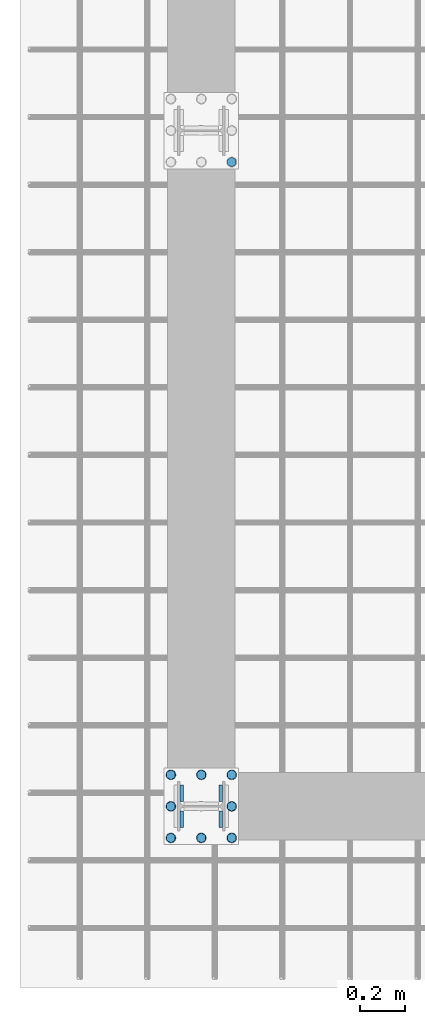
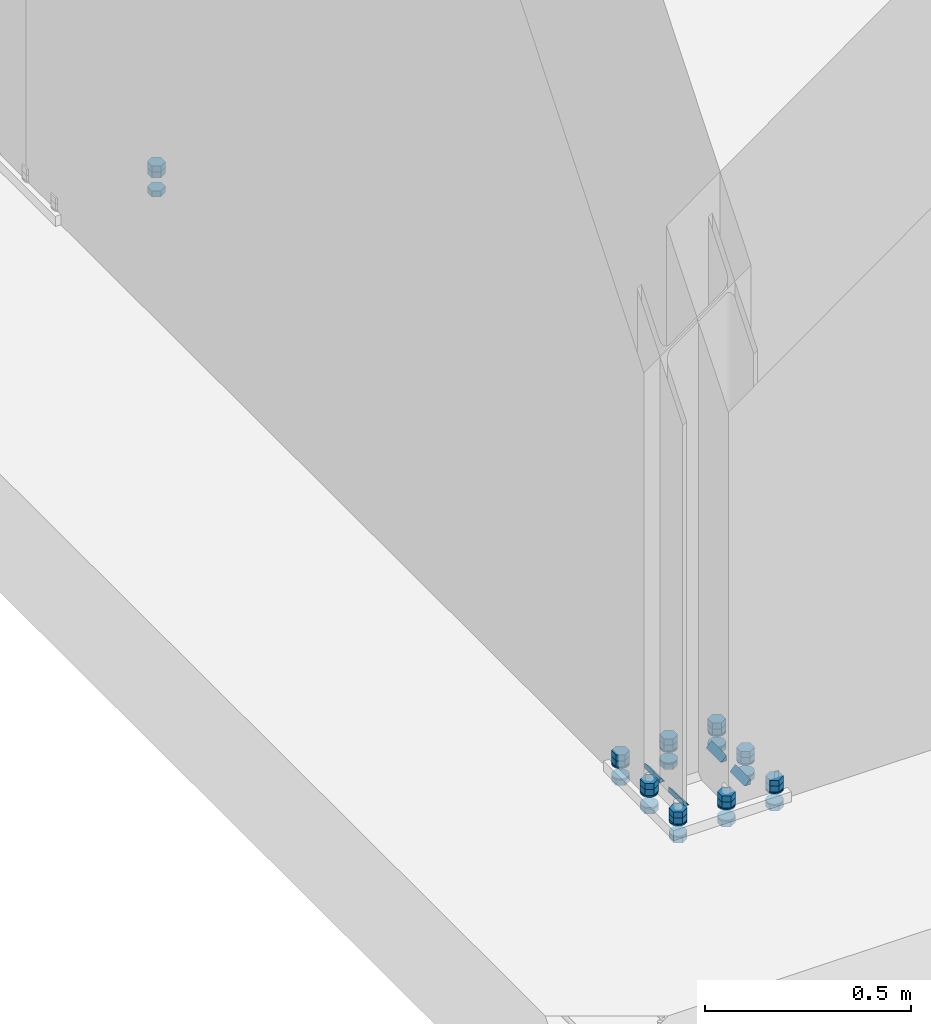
# One storey, part 13 of 29: 43 mechanical fasteners, 8 fasteners.
"""IFC4 building model written with IfcOpenShell, lengths in metres."""

from ifc_helpers import new_model, si_unit, frame, origin_with_axes, place, context, project, spatial, polyline, outline, extrude, type_object, element, save


model = new_model("IFC4")

# Units and contexts
model_context = context("Model", 3, precision=1e-05, world=origin_with_axes())
ifc_project = project(units=[si_unit("LENGTHUNIT", "METRE"), si_unit("AREAUNIT", "SQUARE_METRE"), si_unit("VOLUMEUNIT", "CUBIC_METRE"), si_unit("MASSUNIT", "GRAM", prefix="KILO"), si_unit("TIMEUNIT", "SECOND"), si_unit("PLANEANGLEUNIT", "RADIAN"), si_unit("SOLIDANGLEUNIT", "STERADIAN"), si_unit("THERMODYNAMICTEMPERATUREUNIT", "DEGREE_CELSIUS")], contexts=[model_context])

# Site, building, storey
placement_1 = place(None, origin_with_axes())
site = spatial("IfcSite", under=ifc_project, at=placement_1, Name="Italia", CompositionType="ELEMENT")
building = spatial("IfcBuilding", under=site, at=placement_1, Name="Capannone", CompositionType="ELEMENT")
storey = spatial("IfcBuildingStorey", under=building, at=placement_1, Name="Storey 0", CompositionType="ELEMENT", Elevation=0.0)

# Fasteners
fastener_type_1 = type_object("IfcFastenerType", Name="Collegamenti 0001_0101 0002_0102 0003_0103 0004_0104 0005_0105 0006_0106 0007_0107 0008_0108 0009_0109 0010_0110 0011_0111 0012_0112", PredefinedType="WELD")
placement_2 = place(placement_1, origin_with_axes())
fastener_1_placement = place(placement_2, origin_with_axes())
element("IfcFastener", 1, at=fastener_1_placement, inside=storey, type_object=fastener_type_1, Name="Collegamenti 0001_0101 0002_0102 0003_0103 0004_0104 0005_0105 0006_0106 0007_0107 0008_0108 0009_0109 0010_0110 0011_0111 0012_0112", context=model_context, shape_type="SweptSolid", body=[
    extrude(outline(polyline([(0.0, 0.0), (0.0156882, 0.0161734), (0.0156882, 0.0), (0.0, 0.0)])), frame((-0.0783618, 0.02145, 0.02995), z_axis=(0.0, 1.0, 0.0), x_axis=(-1.0, 0.0, 0.0)), (0.0, 0.0, 1.0), 0.0726),
])
fastener_type_2 = type_object("IfcFastenerType", Name="Collegamenti 0001_0101 0002_0102 0003_0103 0004_0104 0005_0105 0006_0106 0007_0107 0008_0108 0009_0109 0010_0110 0011_0111 0012_0112", PredefinedType="WELD")
fastener_2_placement = place(placement_2, origin_with_axes())
element("IfcFastener", 2, at=fastener_2_placement, inside=storey, type_object=fastener_type_2, Name="Collegamenti 0001_0101 0002_0102 0003_0103 0004_0104 0005_0105 0006_0106 0007_0107 0008_0108 0009_0109 0010_0110 0011_0111 0012_0112", context=model_context, shape_type="SweptSolid", body=[
    extrude(outline(polyline([(0.0, 0.0), (0.0156882, 0.0161734), (0.0156882, 0.0), (0.0, 0.0)])), frame((0.0783618, 0.09405, 0.02995), z_axis=(0.0, -1.0, 0.0), x_axis=(1.0, 0.0, 0.0)), (0.0, 0.0, 1.0), 0.0726),
])
fastener_type_3 = type_object("IfcFastenerType", Name="Collegamenti 0001_0101 0002_0102 0003_0103 0004_0104 0005_0105 0006_0106 0007_0107 0008_0108 0009_0109 0010_0110 0011_0111 0012_0112", PredefinedType="WELD")
fastener_3_placement = place(placement_2, origin_with_axes())
element("IfcFastener", 3, at=fastener_3_placement, inside=storey, type_object=fastener_type_3, Name="Collegamenti 0001_0101 0002_0102 0003_0103 0004_0104 0005_0105 0006_0106 0007_0107 0008_0108 0009_0109 0010_0110 0011_0111 0012_0112", context=model_context, shape_type="SweptSolid", body=[
    extrude(outline(polyline([(0.0, 0.0), (0.0156882, 0.0161734), (0.0156882, 0.0), (0.0, 0.0)])), frame((0.0783618, -0.02145, 0.02995), z_axis=(0.0, -1.0, 0.0), x_axis=(1.0, 0.0, 0.0)), (0.0, 0.0, 1.0), 0.0726),
])
fastener_type_4 = type_object("IfcFastenerType", Name="Collegamenti 0001_0101 0002_0102 0003_0103 0004_0104 0005_0105 0006_0106 0007_0107 0008_0108 0009_0109 0010_0110 0011_0111 0012_0112", PredefinedType="WELD")
fastener_4_placement = place(placement_2, origin_with_axes())
element("IfcFastener", 4, at=fastener_4_placement, inside=storey, type_object=fastener_type_4, Name="Collegamenti 0001_0101 0002_0102 0003_0103 0004_0104 0005_0105 0006_0106 0007_0107 0008_0108 0009_0109 0010_0110 0011_0111 0012_0112", context=model_context, shape_type="SweptSolid", body=[
    extrude(outline(polyline([(0.0, 0.0), (0.0156882, 0.0161734), (0.0156882, 0.0), (0.0, 0.0)])), frame((-0.0783618, -0.09405, 0.02995), z_axis=(0.0, 1.0, 0.0), x_axis=(-1.0, 0.0, 0.0)), (0.0, 0.0, 1.0), 0.0726),
])
fastener_type_5 = type_object("IfcFastenerType", Name="Collegamenti 0001_0101 0002_0102 0003_0103 0004_0104 0005_0105 0006_0106 0007_0107 0008_0108 0009_0109 0010_0110 0011_0111 0012_0112", PredefinedType="WELD")
fastener_5_placement = place(placement_2, origin_with_axes())
element("IfcFastener", 5, at=fastener_5_placement, inside=storey, type_object=fastener_type_5, Name="Collegamenti 0001_0101 0002_0102 0003_0103 0004_0104 0005_0105 0006_0106 0007_0107 0008_0108 0009_0109 0010_0110 0011_0111 0012_0112", context=model_context, shape_type="SweptSolid", body=[
    extrude(outline(polyline([(0.0, 0.0), (0.0156882, 0.0161734), (0.0156882, 0.0), (0.0, 0.0)])), frame((-0.0783618, 0.02145, 0.02995), z_axis=(0.0, 1.0, 0.0), x_axis=(-1.0, 0.0, 0.0)), (0.0, 0.0, 1.0), 0.0726),
])
fastener_type_6 = type_object("IfcFastenerType", Name="Collegamenti 0001_0101 0002_0102 0003_0103 0004_0104 0005_0105 0006_0106 0007_0107 0008_0108 0009_0109 0010_0110 0011_0111 0012_0112", PredefinedType="WELD")
fastener_6_placement = place(placement_2, origin_with_axes())
element("IfcFastener", 6, at=fastener_6_placement, inside=storey, type_object=fastener_type_6, Name="Collegamenti 0001_0101 0002_0102 0003_0103 0004_0104 0005_0105 0006_0106 0007_0107 0008_0108 0009_0109 0010_0110 0011_0111 0012_0112", context=model_context, shape_type="SweptSolid", body=[
    extrude(outline(polyline([(0.0, 0.0), (0.0156882, 0.0161734), (0.0156882, 0.0), (0.0, 0.0)])), frame((0.0783618, 0.09405, 0.02995), z_axis=(0.0, -1.0, 0.0), x_axis=(1.0, 0.0, 0.0)), (0.0, 0.0, 1.0), 0.0726),
])
fastener_type_7 = type_object("IfcFastenerType", Name="Collegamenti 0001_0101 0002_0102 0003_0103 0004_0104 0005_0105 0006_0106 0007_0107 0008_0108 0009_0109 0010_0110 0011_0111 0012_0112", PredefinedType="WELD")
fastener_7_placement = place(placement_2, origin_with_axes())
element("IfcFastener", 7, at=fastener_7_placement, inside=storey, type_object=fastener_type_7, Name="Collegamenti 0001_0101 0002_0102 0003_0103 0004_0104 0005_0105 0006_0106 0007_0107 0008_0108 0009_0109 0010_0110 0011_0111 0012_0112", context=model_context, shape_type="SweptSolid", body=[
    extrude(outline(polyline([(0.0, 0.0), (0.0156882, 0.0161734), (0.0156882, 0.0), (0.0, 0.0)])), frame((0.0783618, -0.02145, 0.02995), z_axis=(0.0, -1.0, 0.0), x_axis=(1.0, 0.0, 0.0)), (0.0, 0.0, 1.0), 0.0726),
])
fastener_type_8 = type_object("IfcFastenerType", Name="Collegamenti 0001_0101 0002_0102 0003_0103 0004_0104 0005_0105 0006_0106 0007_0107 0008_0108 0009_0109 0010_0110 0011_0111 0012_0112", PredefinedType="WELD")
fastener_8_placement = place(placement_2, origin_with_axes())
element("IfcFastener", 8, at=fastener_8_placement, inside=storey, type_object=fastener_type_8, Name="Collegamenti 0001_0101 0002_0102 0003_0103 0004_0104 0005_0105 0006_0106 0007_0107 0008_0108 0009_0109 0010_0110 0011_0111 0012_0112", context=model_context, shape_type="SweptSolid", body=[
    extrude(outline(polyline([(0.0, 0.0), (0.0156882, 0.0161734), (0.0156882, 0.0), (0.0, 0.0)])), frame((-0.0783618, -0.09405, 0.02995), z_axis=(0.0, 1.0, 0.0), x_axis=(-1.0, 0.0, 0.0)), (0.0, 0.0, 1.0), 0.0726),
])

# Mechanical fasteners
mechanical_fastener_type_1 = type_object("IfcMechanicalFastenerType", Name="Collegamenti 0001_0101 0002_0102 0003_0103 0004_0104 0005_0105 0006_0106 0007_0107 0008_0108 0009_0109 0010_0110 0011_0111 0012_0112", PredefinedType="BOLT")
mechanical_fastener_1_placement = place(placement_2, origin_with_axes())
element("IfcMechanicalFastener", 9, at=mechanical_fastener_1_placement, inside=storey, type_object=mechanical_fastener_type_1, Name="Collegamenti 0001_0101 0002_0102 0003_0103 0004_0104 0005_0105 0006_0106 0007_0107 0008_0108 0009_0109 0010_0110 0011_0111 0012_0112", NominalDiameter=0.022, context=model_context, shape_type="SweptSolid", body=[
    extrude(outline(polyline([(0.0, 0.0), (-0.022, 0.0), (-0.033, 0.0190526), (-0.022, 0.0381051), (0.0, 0.0381051), (0.011, 0.0190526), (0.0, 0.0)])), frame((0.154053, -0.129, 0.034), z_axis=(0.0, 0.0, 1.0), x_axis=(0.0, 1.0, 0.0)), (0.0, 0.0, 1.0), 0.0176),
])
mechanical_fastener_type_2 = type_object("IfcMechanicalFastenerType", Name="Collegamenti 0001_0101 0002_0102 0003_0103 0004_0104 0005_0105 0006_0106 0007_0107 0008_0108 0009_0109 0010_0110 0011_0111 0012_0112", PredefinedType="BOLT")
mechanical_fastener_2_placement = place(placement_2, origin_with_axes())
element("IfcMechanicalFastener", 10, at=mechanical_fastener_2_placement, inside=storey, type_object=mechanical_fastener_type_2, Name="Collegamenti 0001_0101 0002_0102 0003_0103 0004_0104 0005_0105 0006_0106 0007_0107 0008_0108 0009_0109 0010_0110 0011_0111 0012_0112", NominalDiameter=0.022, context=model_context, shape_type="SweptSolid", body=[
    extrude(outline(polyline([(0.0, 0.0), (-0.022, 0.0), (-0.033, 0.0190526), (-0.022, 0.0381051), (0.0, 0.0381051), (0.011, 0.0190526), (0.0, 0.0)])), frame((0.154053, -0.129, 0.0516), z_axis=(0.0, 0.0, 1.0), x_axis=(0.0, 1.0, 0.0)), (0.0, 0.0, 1.0), 0.0176),
])
mechanical_fastener_type_3 = type_object("IfcMechanicalFastenerType", Name="Collegamenti 0001_0101 0002_0102 0003_0103 0004_0104 0005_0105 0006_0106 0007_0107 0008_0108 0009_0109 0010_0110 0011_0111 0012_0112", PredefinedType="BOLT")
mechanical_fastener_3_placement = place(placement_2, origin_with_axes())
element("IfcMechanicalFastener", 11, at=mechanical_fastener_3_placement, inside=storey, type_object=mechanical_fastener_type_3, Name="Collegamenti 0001_0101 0002_0102 0003_0103 0004_0104 0005_0105 0006_0106 0007_0107 0008_0108 0009_0109 0010_0110 0011_0111 0012_0112", NominalDiameter=0.022, context=model_context, shape_type="SweptSolid", body=[
    extrude(outline(polyline([(0.0, 0.0), (-0.022, 0.0), (-0.033, 0.0190526), (-0.022, 0.0381051), (0.0, 0.0381051), (0.011, 0.0190526), (0.0, 0.0)])), frame((0.154053, -0.129, -0.0216), z_axis=(0.0, 0.0, 1.0), x_axis=(0.0, 1.0, 0.0)), (0.0, 0.0, 1.0), 0.0176),
])
mechanical_fastener_type_4 = type_object("IfcMechanicalFastenerType", Name="Collegamenti 0001_0101 0002_0102 0003_0103 0004_0104 0005_0105 0006_0106 0007_0107 0008_0108 0009_0109 0010_0110 0011_0111 0012_0112", PredefinedType="BOLT")
mechanical_fastener_4_placement = place(placement_2, origin_with_axes())
element("IfcMechanicalFastener", 12, at=mechanical_fastener_4_placement, inside=storey, type_object=mechanical_fastener_type_4, Name="Collegamenti 0001_0101 0002_0102 0003_0103 0004_0104 0005_0105 0006_0106 0007_0107 0008_0108 0009_0109 0010_0110 0011_0111 0012_0112", NominalDiameter=0.044, context=model_context, shape_type="SweptSolid", body=[
    extrude(outline(polyline([(0.0, 0.0), (-0.000749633, -0.00569402), (-0.00294744, -0.011), (-0.00644365, -0.0155564), (-0.011, -0.0190526), (-0.016306, -0.0212504), (-0.022, -0.022), (-0.027694, -0.0212504), (-0.033, -0.0190526), (-0.0375564, -0.0155564), (-0.0410526, -0.011), (-0.0432504, -0.00569402), (-0.044, 0.0), (-0.0432504, 0.00569402), (-0.0410526, 0.011), (-0.0375564, 0.0155564), (-0.033, 0.0190526), (-0.027694, 0.0212504), (-0.022, 0.022), (-0.016306, 0.0212504), (-0.011, 0.0190526), (-0.00644365, 0.0155563), (-0.00294743, 0.011), (-0.000749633, 0.00569402), (0.0, 0.0)])), frame((0.135, -0.118, 0.03), z_axis=(0.0, 0.0, 1.0), x_axis=(0.0, 1.0, 0.0)), (0.0, 0.0, 1.0), 0.004),
])
mechanical_fastener_type_5 = type_object("IfcMechanicalFastenerType", Name="Collegamenti 0001_0101 0002_0102 0003_0103 0004_0104 0005_0105 0006_0106 0007_0107 0008_0108 0009_0109 0010_0110 0011_0111 0012_0112", PredefinedType="BOLT")
mechanical_fastener_5_placement = place(placement_2, origin_with_axes())
element("IfcMechanicalFastener", 13, at=mechanical_fastener_5_placement, inside=storey, type_object=mechanical_fastener_type_5, Name="Collegamenti 0001_0101 0002_0102 0003_0103 0004_0104 0005_0105 0006_0106 0007_0107 0008_0108 0009_0109 0010_0110 0011_0111 0012_0112", NominalDiameter=0.044, context=model_context, shape_type="SweptSolid", body=[
    extrude(outline(polyline([(0.0, 0.0), (-0.000749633, -0.00569402), (-0.00294744, -0.011), (-0.00644365, -0.0155564), (-0.011, -0.0190526), (-0.016306, -0.0212504), (-0.022, -0.022), (-0.027694, -0.0212504), (-0.033, -0.0190526), (-0.0375564, -0.0155564), (-0.0410526, -0.011), (-0.0432504, -0.00569402), (-0.044, 0.0), (-0.0432504, 0.00569402), (-0.0410526, 0.011), (-0.0375564, 0.0155564), (-0.033, 0.0190526), (-0.027694, 0.0212504), (-0.022, 0.022), (-0.016306, 0.0212504), (-0.011, 0.0190526), (-0.00644365, 0.0155563), (-0.00294743, 0.011), (-0.000749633, 0.00569402), (0.0, 0.0)])), frame((0.135, -0.118, -0.004), z_axis=(0.0, 0.0, 1.0), x_axis=(0.0, 1.0, 0.0)), (0.0, 0.0, 1.0), 0.004),
])
mechanical_fastener_type_6 = type_object("IfcMechanicalFastenerType", Name="Collegamenti 0001_0101 0002_0102 0003_0103 0004_0104 0005_0105 0006_0106 0007_0107 0008_0108 0009_0109 0010_0110 0011_0111 0012_0112", PredefinedType="BOLT")
mechanical_fastener_6_placement = place(placement_2, origin_with_axes())
element("IfcMechanicalFastener", 14, at=mechanical_fastener_6_placement, inside=storey, type_object=mechanical_fastener_type_6, Name="Collegamenti 0001_0101 0002_0102 0003_0103 0004_0104 0005_0105 0006_0106 0007_0107 0008_0108 0009_0109 0010_0110 0011_0111 0012_0112", NominalDiameter=0.022, context=model_context, shape_type="SweptSolid", body=[
    extrude(outline(polyline([(0.0, 0.0), (-0.022, 0.0), (-0.033, 0.0190526), (-0.022, 0.0381051), (0.0, 0.0381051), (0.011, 0.0190526), (0.0, 0.0)])), frame((0.154053, 0.011, 0.034), z_axis=(0.0, 0.0, 1.0), x_axis=(0.0, 1.0, 0.0)), (0.0, 0.0, 1.0), 0.0176),
])
mechanical_fastener_type_7 = type_object("IfcMechanicalFastenerType", Name="Collegamenti 0001_0101 0002_0102 0003_0103 0004_0104 0005_0105 0006_0106 0007_0107 0008_0108 0009_0109 0010_0110 0011_0111 0012_0112", PredefinedType="BOLT")
mechanical_fastener_7_placement = place(placement_2, origin_with_axes())
element("IfcMechanicalFastener", 15, at=mechanical_fastener_7_placement, inside=storey, type_object=mechanical_fastener_type_7, Name="Collegamenti 0001_0101 0002_0102 0003_0103 0004_0104 0005_0105 0006_0106 0007_0107 0008_0108 0009_0109 0010_0110 0011_0111 0012_0112", NominalDiameter=0.022, context=model_context, shape_type="SweptSolid", body=[
    extrude(outline(polyline([(0.0, 0.0), (-0.022, 0.0), (-0.033, 0.0190526), (-0.022, 0.0381051), (0.0, 0.0381051), (0.011, 0.0190526), (0.0, 0.0)])), frame((0.154053, 0.011, 0.0516), z_axis=(0.0, 0.0, 1.0), x_axis=(0.0, 1.0, 0.0)), (0.0, 0.0, 1.0), 0.0176),
])
mechanical_fastener_type_8 = type_object("IfcMechanicalFastenerType", Name="Collegamenti 0001_0101 0002_0102 0003_0103 0004_0104 0005_0105 0006_0106 0007_0107 0008_0108 0009_0109 0010_0110 0011_0111 0012_0112", PredefinedType="BOLT")
mechanical_fastener_8_placement = place(placement_2, origin_with_axes())
element("IfcMechanicalFastener", 16, at=mechanical_fastener_8_placement, inside=storey, type_object=mechanical_fastener_type_8, Name="Collegamenti 0001_0101 0002_0102 0003_0103 0004_0104 0005_0105 0006_0106 0007_0107 0008_0108 0009_0109 0010_0110 0011_0111 0012_0112", NominalDiameter=0.022, context=model_context, shape_type="SweptSolid", body=[
    extrude(outline(polyline([(0.0, 0.0), (-0.022, 0.0), (-0.033, 0.0190526), (-0.022, 0.0381051), (0.0, 0.0381051), (0.011, 0.0190526), (0.0, 0.0)])), frame((0.154053, 0.011, -0.0216), z_axis=(0.0, 0.0, 1.0), x_axis=(0.0, 1.0, 0.0)), (0.0, 0.0, 1.0), 0.0176),
])
mechanical_fastener_type_9 = type_object("IfcMechanicalFastenerType", Name="Collegamenti 0001_0101 0002_0102 0003_0103 0004_0104 0005_0105 0006_0106 0007_0107 0008_0108 0009_0109 0010_0110 0011_0111 0012_0112", PredefinedType="BOLT")
mechanical_fastener_9_placement = place(placement_2, origin_with_axes())
element("IfcMechanicalFastener", 17, at=mechanical_fastener_9_placement, inside=storey, type_object=mechanical_fastener_type_9, Name="Collegamenti 0001_0101 0002_0102 0003_0103 0004_0104 0005_0105 0006_0106 0007_0107 0008_0108 0009_0109 0010_0110 0011_0111 0012_0112", NominalDiameter=0.044, context=model_context, shape_type="SweptSolid", body=[
    extrude(outline(polyline([(0.0, 0.0), (-0.000749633, -0.00569402), (-0.00294744, -0.011), (-0.00644365, -0.0155564), (-0.011, -0.0190526), (-0.016306, -0.0212504), (-0.022, -0.022), (-0.027694, -0.0212504), (-0.033, -0.0190526), (-0.0375564, -0.0155564), (-0.0410526, -0.011), (-0.0432504, -0.00569402), (-0.044, 0.0), (-0.0432504, 0.00569402), (-0.0410526, 0.011), (-0.0375563, 0.0155564), (-0.033, 0.0190526), (-0.027694, 0.0212504), (-0.022, 0.022), (-0.016306, 0.0212504), (-0.011, 0.0190526), (-0.00644365, 0.0155563), (-0.00294744, 0.011), (-0.000749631, 0.00569402), (0.0, 0.0)])), frame((0.135, 0.022, 0.03), z_axis=(0.0, 0.0, 1.0), x_axis=(0.0, 1.0, 0.0)), (0.0, 0.0, 1.0), 0.004),
])
mechanical_fastener_type_10 = type_object("IfcMechanicalFastenerType", Name="Collegamenti 0001_0101 0002_0102 0003_0103 0004_0104 0005_0105 0006_0106 0007_0107 0008_0108 0009_0109 0010_0110 0011_0111 0012_0112", PredefinedType="BOLT")
mechanical_fastener_10_placement = place(placement_2, origin_with_axes())
element("IfcMechanicalFastener", 18, at=mechanical_fastener_10_placement, inside=storey, type_object=mechanical_fastener_type_10, Name="Collegamenti 0001_0101 0002_0102 0003_0103 0004_0104 0005_0105 0006_0106 0007_0107 0008_0108 0009_0109 0010_0110 0011_0111 0012_0112", NominalDiameter=0.044, context=model_context, shape_type="SweptSolid", body=[
    extrude(outline(polyline([(0.0, 0.0), (-0.000749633, -0.00569402), (-0.00294744, -0.011), (-0.00644365, -0.0155564), (-0.011, -0.0190526), (-0.016306, -0.0212504), (-0.022, -0.022), (-0.027694, -0.0212504), (-0.033, -0.0190526), (-0.0375564, -0.0155564), (-0.0410526, -0.011), (-0.0432504, -0.00569402), (-0.044, 0.0), (-0.0432504, 0.00569402), (-0.0410526, 0.011), (-0.0375563, 0.0155564), (-0.033, 0.0190526), (-0.027694, 0.0212504), (-0.022, 0.022), (-0.016306, 0.0212504), (-0.011, 0.0190526), (-0.00644365, 0.0155563), (-0.00294744, 0.011), (-0.000749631, 0.00569402), (0.0, 0.0)])), frame((0.135, 0.022, -0.004), z_axis=(0.0, 0.0, 1.0), x_axis=(0.0, 1.0, 0.0)), (0.0, 0.0, 1.0), 0.004),
])
mechanical_fastener_type_11 = type_object("IfcMechanicalFastenerType", Name="Collegamenti 0001_0101 0002_0102 0003_0103 0004_0104 0005_0105 0006_0106 0007_0107 0008_0108 0009_0109 0010_0110 0011_0111 0012_0112", PredefinedType="BOLT")
mechanical_fastener_11_placement = place(placement_2, origin_with_axes())
element("IfcMechanicalFastener", 19, at=mechanical_fastener_11_placement, inside=storey, type_object=mechanical_fastener_type_11, Name="Collegamenti 0001_0101 0002_0102 0003_0103 0004_0104 0005_0105 0006_0106 0007_0107 0008_0108 0009_0109 0010_0110 0011_0111 0012_0112", NominalDiameter=0.022, context=model_context, shape_type="SweptSolid", body=[
    extrude(outline(polyline([(0.0, 0.0), (-0.022, 0.0), (-0.033, 0.0190526), (-0.022, 0.0381051), (0.0, 0.0381051), (0.011, 0.0190526), (0.0, 0.0)])), frame((0.154053, 0.151, 0.034), z_axis=(0.0, 0.0, 1.0), x_axis=(0.0, 1.0, 0.0)), (0.0, 0.0, 1.0), 0.0176),
])
mechanical_fastener_type_12 = type_object("IfcMechanicalFastenerType", Name="Collegamenti 0001_0101 0002_0102 0003_0103 0004_0104 0005_0105 0006_0106 0007_0107 0008_0108 0009_0109 0010_0110 0011_0111 0012_0112", PredefinedType="BOLT")
mechanical_fastener_12_placement = place(placement_2, origin_with_axes())
element("IfcMechanicalFastener", 20, at=mechanical_fastener_12_placement, inside=storey, type_object=mechanical_fastener_type_12, Name="Collegamenti 0001_0101 0002_0102 0003_0103 0004_0104 0005_0105 0006_0106 0007_0107 0008_0108 0009_0109 0010_0110 0011_0111 0012_0112", NominalDiameter=0.022, context=model_context, shape_type="SweptSolid", body=[
    extrude(outline(polyline([(0.0, 0.0), (-0.022, 0.0), (-0.033, 0.0190526), (-0.022, 0.0381051), (0.0, 0.0381051), (0.011, 0.0190526), (0.0, 0.0)])), frame((0.154053, 0.151, 0.0516), z_axis=(0.0, 0.0, 1.0), x_axis=(0.0, 1.0, 0.0)), (0.0, 0.0, 1.0), 0.0176),
])
mechanical_fastener_type_13 = type_object("IfcMechanicalFastenerType", Name="Collegamenti 0001_0101 0002_0102 0003_0103 0004_0104 0005_0105 0006_0106 0007_0107 0008_0108 0009_0109 0010_0110 0011_0111 0012_0112", PredefinedType="BOLT")
mechanical_fastener_13_placement = place(placement_2, origin_with_axes())
element("IfcMechanicalFastener", 21, at=mechanical_fastener_13_placement, inside=storey, type_object=mechanical_fastener_type_13, Name="Collegamenti 0001_0101 0002_0102 0003_0103 0004_0104 0005_0105 0006_0106 0007_0107 0008_0108 0009_0109 0010_0110 0011_0111 0012_0112", NominalDiameter=0.022, context=model_context, shape_type="SweptSolid", body=[
    extrude(outline(polyline([(0.0, 0.0), (-0.022, 0.0), (-0.033, 0.0190526), (-0.022, 0.0381051), (0.0, 0.0381051), (0.011, 0.0190526), (0.0, 0.0)])), frame((0.154053, 0.151, -0.0216), z_axis=(0.0, 0.0, 1.0), x_axis=(0.0, 1.0, 0.0)), (0.0, 0.0, 1.0), 0.0176),
])
mechanical_fastener_type_14 = type_object("IfcMechanicalFastenerType", Name="Collegamenti 0001_0101 0002_0102 0003_0103 0004_0104 0005_0105 0006_0106 0007_0107 0008_0108 0009_0109 0010_0110 0011_0111 0012_0112", PredefinedType="BOLT")
mechanical_fastener_14_placement = place(placement_2, origin_with_axes())
element("IfcMechanicalFastener", 22, at=mechanical_fastener_14_placement, inside=storey, type_object=mechanical_fastener_type_14, Name="Collegamenti 0001_0101 0002_0102 0003_0103 0004_0104 0005_0105 0006_0106 0007_0107 0008_0108 0009_0109 0010_0110 0011_0111 0012_0112", NominalDiameter=0.044, context=model_context, shape_type="SweptSolid", body=[
    extrude(outline(polyline([(0.0, 0.0), (-0.000749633, -0.00569402), (-0.00294743, -0.011), (-0.00644365, -0.0155564), (-0.011, -0.0190526), (-0.016306, -0.0212504), (-0.022, -0.022), (-0.027694, -0.0212504), (-0.033, -0.0190526), (-0.0375564, -0.0155564), (-0.0410526, -0.011), (-0.0432504, -0.00569402), (-0.044, 0.0), (-0.0432504, 0.00569402), (-0.0410526, 0.011), (-0.0375564, 0.0155564), (-0.033, 0.0190526), (-0.027694, 0.0212504), (-0.022, 0.022), (-0.016306, 0.0212504), (-0.011, 0.0190526), (-0.00644365, 0.0155563), (-0.00294743, 0.011), (-0.000749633, 0.00569402), (0.0, 0.0)])), frame((0.135, 0.162, 0.03), z_axis=(0.0, 0.0, 1.0), x_axis=(0.0, 1.0, 0.0)), (0.0, 0.0, 1.0), 0.004),
])
mechanical_fastener_type_15 = type_object("IfcMechanicalFastenerType", Name="Collegamenti 0001_0101 0002_0102 0003_0103 0004_0104 0005_0105 0006_0106 0007_0107 0008_0108 0009_0109 0010_0110 0011_0111 0012_0112", PredefinedType="BOLT")
mechanical_fastener_15_placement = place(placement_2, origin_with_axes())
element("IfcMechanicalFastener", 23, at=mechanical_fastener_15_placement, inside=storey, type_object=mechanical_fastener_type_15, Name="Collegamenti 0001_0101 0002_0102 0003_0103 0004_0104 0005_0105 0006_0106 0007_0107 0008_0108 0009_0109 0010_0110 0011_0111 0012_0112", NominalDiameter=0.044, context=model_context, shape_type="SweptSolid", body=[
    extrude(outline(polyline([(0.0, 0.0), (-0.000749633, -0.00569402), (-0.00294743, -0.011), (-0.00644365, -0.0155564), (-0.011, -0.0190526), (-0.016306, -0.0212504), (-0.022, -0.022), (-0.027694, -0.0212504), (-0.033, -0.0190526), (-0.0375564, -0.0155564), (-0.0410526, -0.011), (-0.0432504, -0.00569402), (-0.044, 0.0), (-0.0432504, 0.00569402), (-0.0410526, 0.011), (-0.0375564, 0.0155564), (-0.033, 0.0190526), (-0.027694, 0.0212504), (-0.022, 0.022), (-0.016306, 0.0212504), (-0.011, 0.0190526), (-0.00644365, 0.0155563), (-0.00294743, 0.011), (-0.000749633, 0.00569402), (0.0, 0.0)])), frame((0.135, 0.162, -0.004), z_axis=(0.0, 0.0, 1.0), x_axis=(0.0, 1.0, 0.0)), (0.0, 0.0, 1.0), 0.004),
])
mechanical_fastener_type_16 = type_object("IfcMechanicalFastenerType", Name="Collegamenti 0001_0101 0002_0102 0003_0103 0004_0104 0005_0105 0006_0106 0007_0107 0008_0108 0009_0109 0010_0110 0011_0111 0012_0112", PredefinedType="BOLT")
mechanical_fastener_16_placement = place(placement_2, origin_with_axes())
element("IfcMechanicalFastener", 24, at=mechanical_fastener_16_placement, inside=storey, type_object=mechanical_fastener_type_16, Name="Collegamenti 0001_0101 0002_0102 0003_0103 0004_0104 0005_0105 0006_0106 0007_0107 0008_0108 0009_0109 0010_0110 0011_0111 0012_0112", NominalDiameter=0.022, context=model_context, shape_type="SweptSolid", body=[
    extrude(outline(polyline([(0.0, 0.0), (-0.022, 0.0), (-0.033, 0.0190526), (-0.022, 0.0381051), (0.0, 0.0381051), (0.011, 0.0190526), (0.0, 0.0)])), frame((0.0190526, -0.129, 0.034), z_axis=(0.0, 0.0, 1.0), x_axis=(0.0, 1.0, 0.0)), (0.0, 0.0, 1.0), 0.0176),
])
mechanical_fastener_type_17 = type_object("IfcMechanicalFastenerType", Name="Collegamenti 0001_0101 0002_0102 0003_0103 0004_0104 0005_0105 0006_0106 0007_0107 0008_0108 0009_0109 0010_0110 0011_0111 0012_0112", PredefinedType="BOLT")
mechanical_fastener_17_placement = place(placement_2, origin_with_axes())
element("IfcMechanicalFastener", 25, at=mechanical_fastener_17_placement, inside=storey, type_object=mechanical_fastener_type_17, Name="Collegamenti 0001_0101 0002_0102 0003_0103 0004_0104 0005_0105 0006_0106 0007_0107 0008_0108 0009_0109 0010_0110 0011_0111 0012_0112", NominalDiameter=0.022, context=model_context, shape_type="SweptSolid", body=[
    extrude(outline(polyline([(0.0, 0.0), (-0.022, 0.0), (-0.033, 0.0190526), (-0.022, 0.0381051), (0.0, 0.0381051), (0.011, 0.0190526), (0.0, 0.0)])), frame((0.0190526, -0.129, 0.0516), z_axis=(0.0, 0.0, 1.0), x_axis=(0.0, 1.0, 0.0)), (0.0, 0.0, 1.0), 0.0176),
])
mechanical_fastener_type_18 = type_object("IfcMechanicalFastenerType", Name="Collegamenti 0001_0101 0002_0102 0003_0103 0004_0104 0005_0105 0006_0106 0007_0107 0008_0108 0009_0109 0010_0110 0011_0111 0012_0112", PredefinedType="BOLT")
mechanical_fastener_18_placement = place(placement_2, origin_with_axes())
element("IfcMechanicalFastener", 26, at=mechanical_fastener_18_placement, inside=storey, type_object=mechanical_fastener_type_18, Name="Collegamenti 0001_0101 0002_0102 0003_0103 0004_0104 0005_0105 0006_0106 0007_0107 0008_0108 0009_0109 0010_0110 0011_0111 0012_0112", NominalDiameter=0.022, context=model_context, shape_type="SweptSolid", body=[
    extrude(outline(polyline([(0.0, 0.0), (-0.022, 0.0), (-0.033, 0.0190526), (-0.022, 0.0381051), (0.0, 0.0381051), (0.011, 0.0190526), (0.0, 0.0)])), frame((0.0190526, -0.129, -0.0216), z_axis=(0.0, 0.0, 1.0), x_axis=(0.0, 1.0, 0.0)), (0.0, 0.0, 1.0), 0.0176),
])
mechanical_fastener_type_19 = type_object("IfcMechanicalFastenerType", Name="Collegamenti 0001_0101 0002_0102 0003_0103 0004_0104 0005_0105 0006_0106 0007_0107 0008_0108 0009_0109 0010_0110 0011_0111 0012_0112", PredefinedType="BOLT")
mechanical_fastener_19_placement = place(placement_2, origin_with_axes())
element("IfcMechanicalFastener", 27, at=mechanical_fastener_19_placement, inside=storey, type_object=mechanical_fastener_type_19, Name="Collegamenti 0001_0101 0002_0102 0003_0103 0004_0104 0005_0105 0006_0106 0007_0107 0008_0108 0009_0109 0010_0110 0011_0111 0012_0112", NominalDiameter=0.044, context=model_context, shape_type="SweptSolid", body=[
    extrude(outline(polyline([(0.0, 0.0), (-0.000749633, -0.00569402), (-0.00294744, -0.011), (-0.00644365, -0.0155563), (-0.011, -0.0190526), (-0.016306, -0.0212504), (-0.022, -0.022), (-0.027694, -0.0212504), (-0.033, -0.0190526), (-0.0375564, -0.0155563), (-0.0410526, -0.011), (-0.0432504, -0.00569402), (-0.044, 0.0), (-0.0432504, 0.00569402), (-0.0410526, 0.011), (-0.0375564, 0.0155564), (-0.033, 0.0190526), (-0.027694, 0.0212504), (-0.022, 0.022), (-0.016306, 0.0212504), (-0.011, 0.0190526), (-0.00644365, 0.0155563), (-0.00294743, 0.011), (-0.000749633, 0.00569401), (0.0, 0.0)])), frame((0.0, -0.118, 0.03), z_axis=(0.0, 0.0, 1.0), x_axis=(0.0, 1.0, 0.0)), (0.0, 0.0, 1.0), 0.004),
])
mechanical_fastener_type_20 = type_object("IfcMechanicalFastenerType", Name="Collegamenti 0001_0101 0002_0102 0003_0103 0004_0104 0005_0105 0006_0106 0007_0107 0008_0108 0009_0109 0010_0110 0011_0111 0012_0112", PredefinedType="BOLT")
mechanical_fastener_20_placement = place(placement_2, origin_with_axes())
element("IfcMechanicalFastener", 28, at=mechanical_fastener_20_placement, inside=storey, type_object=mechanical_fastener_type_20, Name="Collegamenti 0001_0101 0002_0102 0003_0103 0004_0104 0005_0105 0006_0106 0007_0107 0008_0108 0009_0109 0010_0110 0011_0111 0012_0112", NominalDiameter=0.044, context=model_context, shape_type="SweptSolid", body=[
    extrude(outline(polyline([(0.0, 0.0), (-0.000749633, -0.00569402), (-0.00294744, -0.011), (-0.00644365, -0.0155563), (-0.011, -0.0190526), (-0.016306, -0.0212504), (-0.022, -0.022), (-0.027694, -0.0212504), (-0.033, -0.0190526), (-0.0375564, -0.0155563), (-0.0410526, -0.011), (-0.0432504, -0.00569402), (-0.044, 0.0), (-0.0432504, 0.00569402), (-0.0410526, 0.011), (-0.0375564, 0.0155564), (-0.033, 0.0190526), (-0.027694, 0.0212504), (-0.022, 0.022), (-0.016306, 0.0212504), (-0.011, 0.0190526), (-0.00644365, 0.0155563), (-0.00294743, 0.011), (-0.000749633, 0.00569401), (0.0, 0.0)])), frame((0.0, -0.118, -0.004), z_axis=(0.0, 0.0, 1.0), x_axis=(0.0, 1.0, 0.0)), (0.0, 0.0, 1.0), 0.004),
])
mechanical_fastener_type_21 = type_object("IfcMechanicalFastenerType", Name="Collegamenti 0001_0101 0002_0102 0003_0103 0004_0104 0005_0105 0006_0106 0007_0107 0008_0108 0009_0109 0010_0110 0011_0111 0012_0112", PredefinedType="BOLT")
mechanical_fastener_21_placement = place(placement_2, origin_with_axes())
element("IfcMechanicalFastener", 29, at=mechanical_fastener_21_placement, inside=storey, type_object=mechanical_fastener_type_21, Name="Collegamenti 0001_0101 0002_0102 0003_0103 0004_0104 0005_0105 0006_0106 0007_0107 0008_0108 0009_0109 0010_0110 0011_0111 0012_0112", NominalDiameter=0.022, context=model_context, shape_type="SweptSolid", body=[
    extrude(outline(polyline([(0.0, 0.0), (-0.022, 0.0), (-0.033, 0.0190526), (-0.022, 0.0381051), (0.0, 0.0381051), (0.011, 0.0190526), (0.0, 0.0)])), frame((0.0190526, 0.151, 0.034), z_axis=(0.0, 0.0, 1.0), x_axis=(0.0, 1.0, 0.0)), (0.0, 0.0, 1.0), 0.0176),
])
mechanical_fastener_type_22 = type_object("IfcMechanicalFastenerType", Name="Collegamenti 0001_0101 0002_0102 0003_0103 0004_0104 0005_0105 0006_0106 0007_0107 0008_0108 0009_0109 0010_0110 0011_0111 0012_0112", PredefinedType="BOLT")
mechanical_fastener_22_placement = place(placement_2, origin_with_axes())
element("IfcMechanicalFastener", 30, at=mechanical_fastener_22_placement, inside=storey, type_object=mechanical_fastener_type_22, Name="Collegamenti 0001_0101 0002_0102 0003_0103 0004_0104 0005_0105 0006_0106 0007_0107 0008_0108 0009_0109 0010_0110 0011_0111 0012_0112", NominalDiameter=0.022, context=model_context, shape_type="SweptSolid", body=[
    extrude(outline(polyline([(0.0, 0.0), (-0.022, 0.0), (-0.033, 0.0190526), (-0.022, 0.0381051), (0.0, 0.0381051), (0.011, 0.0190526), (0.0, 0.0)])), frame((0.0190526, 0.151, 0.0516), z_axis=(0.0, 0.0, 1.0), x_axis=(0.0, 1.0, 0.0)), (0.0, 0.0, 1.0), 0.0176),
])
mechanical_fastener_type_23 = type_object("IfcMechanicalFastenerType", Name="Collegamenti 0001_0101 0002_0102 0003_0103 0004_0104 0005_0105 0006_0106 0007_0107 0008_0108 0009_0109 0010_0110 0011_0111 0012_0112", PredefinedType="BOLT")
mechanical_fastener_23_placement = place(placement_2, origin_with_axes())
element("IfcMechanicalFastener", 31, at=mechanical_fastener_23_placement, inside=storey, type_object=mechanical_fastener_type_23, Name="Collegamenti 0001_0101 0002_0102 0003_0103 0004_0104 0005_0105 0006_0106 0007_0107 0008_0108 0009_0109 0010_0110 0011_0111 0012_0112", NominalDiameter=0.022, context=model_context, shape_type="SweptSolid", body=[
    extrude(outline(polyline([(0.0, 0.0), (-0.022, 0.0), (-0.033, 0.0190526), (-0.022, 0.0381051), (0.0, 0.0381051), (0.011, 0.0190526), (0.0, 0.0)])), frame((0.0190526, 0.151, -0.0216), z_axis=(0.0, 0.0, 1.0), x_axis=(0.0, 1.0, 0.0)), (0.0, 0.0, 1.0), 0.0176),
])
mechanical_fastener_type_24 = type_object("IfcMechanicalFastenerType", Name="Collegamenti 0001_0101 0002_0102 0003_0103 0004_0104 0005_0105 0006_0106 0007_0107 0008_0108 0009_0109 0010_0110 0011_0111 0012_0112", PredefinedType="BOLT")
mechanical_fastener_24_placement = place(placement_2, origin_with_axes())
element("IfcMechanicalFastener", 32, at=mechanical_fastener_24_placement, inside=storey, type_object=mechanical_fastener_type_24, Name="Collegamenti 0001_0101 0002_0102 0003_0103 0004_0104 0005_0105 0006_0106 0007_0107 0008_0108 0009_0109 0010_0110 0011_0111 0012_0112", NominalDiameter=0.044, context=model_context, shape_type="SweptSolid", body=[
    extrude(outline(polyline([(0.0, 0.0), (-0.000749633, -0.00569402), (-0.00294743, -0.011), (-0.00644365, -0.0155563), (-0.011, -0.0190526), (-0.016306, -0.0212504), (-0.022, -0.022), (-0.027694, -0.0212504), (-0.033, -0.0190526), (-0.0375564, -0.0155563), (-0.0410526, -0.011), (-0.0432504, -0.00569402), (-0.044, 0.0), (-0.0432504, 0.00569402), (-0.0410526, 0.011), (-0.0375564, 0.0155564), (-0.033, 0.0190526), (-0.027694, 0.0212504), (-0.022, 0.022), (-0.016306, 0.0212504), (-0.011, 0.0190526), (-0.00644365, 0.0155563), (-0.00294743, 0.011), (-0.000749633, 0.00569401), (0.0, 0.0)])), frame((0.0, 0.162, 0.03), z_axis=(0.0, 0.0, 1.0), x_axis=(0.0, 1.0, 0.0)), (0.0, 0.0, 1.0), 0.004),
])
mechanical_fastener_type_25 = type_object("IfcMechanicalFastenerType", Name="Collegamenti 0001_0101 0002_0102 0003_0103 0004_0104 0005_0105 0006_0106 0007_0107 0008_0108 0009_0109 0010_0110 0011_0111 0012_0112", PredefinedType="BOLT")
mechanical_fastener_25_placement = place(placement_2, origin_with_axes())
element("IfcMechanicalFastener", 33, at=mechanical_fastener_25_placement, inside=storey, type_object=mechanical_fastener_type_25, Name="Collegamenti 0001_0101 0002_0102 0003_0103 0004_0104 0005_0105 0006_0106 0007_0107 0008_0108 0009_0109 0010_0110 0011_0111 0012_0112", NominalDiameter=0.044, context=model_context, shape_type="SweptSolid", body=[
    extrude(outline(polyline([(0.0, 0.0), (-0.000749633, -0.00569402), (-0.00294743, -0.011), (-0.00644365, -0.0155563), (-0.011, -0.0190526), (-0.016306, -0.0212504), (-0.022, -0.022), (-0.027694, -0.0212504), (-0.033, -0.0190526), (-0.0375564, -0.0155563), (-0.0410526, -0.011), (-0.0432504, -0.00569402), (-0.044, 0.0), (-0.0432504, 0.00569402), (-0.0410526, 0.011), (-0.0375564, 0.0155564), (-0.033, 0.0190526), (-0.027694, 0.0212504), (-0.022, 0.022), (-0.016306, 0.0212504), (-0.011, 0.0190526), (-0.00644365, 0.0155563), (-0.00294743, 0.011), (-0.000749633, 0.00569401), (0.0, 0.0)])), frame((0.0, 0.162, -0.004), z_axis=(0.0, 0.0, 1.0), x_axis=(0.0, 1.0, 0.0)), (0.0, 0.0, 1.0), 0.004),
])
mechanical_fastener_type_26 = type_object("IfcMechanicalFastenerType", Name="Collegamenti 0001_0101 0002_0102 0003_0103 0004_0104 0005_0105 0006_0106 0007_0107 0008_0108 0009_0109 0010_0110 0011_0111 0012_0112", PredefinedType="BOLT")
mechanical_fastener_26_placement = place(placement_2, origin_with_axes())
element("IfcMechanicalFastener", 34, at=mechanical_fastener_26_placement, inside=storey, type_object=mechanical_fastener_type_26, Name="Collegamenti 0001_0101 0002_0102 0003_0103 0004_0104 0005_0105 0006_0106 0007_0107 0008_0108 0009_0109 0010_0110 0011_0111 0012_0112", NominalDiameter=0.022, context=model_context, shape_type="SweptSolid", body=[
    extrude(outline(polyline([(0.0, 0.0), (-0.022, 0.0), (-0.033, 0.0190526), (-0.022, 0.0381051), (0.0, 0.0381051), (0.011, 0.0190526), (0.0, 0.0)])), frame((-0.115947, -0.129, 0.034), z_axis=(0.0, 0.0, 1.0), x_axis=(0.0, 1.0, 0.0)), (0.0, 0.0, 1.0), 0.0176),
])
mechanical_fastener_type_27 = type_object("IfcMechanicalFastenerType", Name="Collegamenti 0001_0101 0002_0102 0003_0103 0004_0104 0005_0105 0006_0106 0007_0107 0008_0108 0009_0109 0010_0110 0011_0111 0012_0112", PredefinedType="BOLT")
mechanical_fastener_27_placement = place(placement_2, origin_with_axes())
element("IfcMechanicalFastener", 35, at=mechanical_fastener_27_placement, inside=storey, type_object=mechanical_fastener_type_27, Name="Collegamenti 0001_0101 0002_0102 0003_0103 0004_0104 0005_0105 0006_0106 0007_0107 0008_0108 0009_0109 0010_0110 0011_0111 0012_0112", NominalDiameter=0.022, context=model_context, shape_type="SweptSolid", body=[
    extrude(outline(polyline([(0.0, 0.0), (-0.022, 0.0), (-0.033, 0.0190526), (-0.022, 0.0381051), (0.0, 0.0381051), (0.011, 0.0190526), (0.0, 0.0)])), frame((-0.115947, -0.129, 0.0516), z_axis=(0.0, 0.0, 1.0), x_axis=(0.0, 1.0, 0.0)), (0.0, 0.0, 1.0), 0.0176),
])
mechanical_fastener_type_28 = type_object("IfcMechanicalFastenerType", Name="Collegamenti 0001_0101 0002_0102 0003_0103 0004_0104 0005_0105 0006_0106 0007_0107 0008_0108 0009_0109 0010_0110 0011_0111 0012_0112", PredefinedType="BOLT")
mechanical_fastener_28_placement = place(placement_2, origin_with_axes())
element("IfcMechanicalFastener", 36, at=mechanical_fastener_28_placement, inside=storey, type_object=mechanical_fastener_type_28, Name="Collegamenti 0001_0101 0002_0102 0003_0103 0004_0104 0005_0105 0006_0106 0007_0107 0008_0108 0009_0109 0010_0110 0011_0111 0012_0112", NominalDiameter=0.022, context=model_context, shape_type="SweptSolid", body=[
    extrude(outline(polyline([(0.0, 0.0), (-0.022, 0.0), (-0.033, 0.0190526), (-0.022, 0.0381051), (0.0, 0.0381051), (0.011, 0.0190526), (0.0, 0.0)])), frame((-0.115947, -0.129, -0.0216), z_axis=(0.0, 0.0, 1.0), x_axis=(0.0, 1.0, 0.0)), (0.0, 0.0, 1.0), 0.0176),
])
mechanical_fastener_type_29 = type_object("IfcMechanicalFastenerType", Name="Collegamenti 0001_0101 0002_0102 0003_0103 0004_0104 0005_0105 0006_0106 0007_0107 0008_0108 0009_0109 0010_0110 0011_0111 0012_0112", PredefinedType="BOLT")
mechanical_fastener_29_placement = place(placement_2, origin_with_axes())
element("IfcMechanicalFastener", 37, at=mechanical_fastener_29_placement, inside=storey, type_object=mechanical_fastener_type_29, Name="Collegamenti 0001_0101 0002_0102 0003_0103 0004_0104 0005_0105 0006_0106 0007_0107 0008_0108 0009_0109 0010_0110 0011_0111 0012_0112", NominalDiameter=0.044, context=model_context, shape_type="SweptSolid", body=[
    extrude(outline(polyline([(0.0, 0.0), (-0.000749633, -0.00569402), (-0.00294744, -0.011), (-0.00644365, -0.0155564), (-0.011, -0.0190526), (-0.016306, -0.0212504), (-0.022, -0.022), (-0.027694, -0.0212504), (-0.033, -0.0190526), (-0.0375564, -0.0155564), (-0.0410526, -0.011), (-0.0432504, -0.00569402), (-0.044, 0.0), (-0.0432504, 0.00569402), (-0.0410526, 0.011), (-0.0375564, 0.0155564), (-0.033, 0.0190526), (-0.027694, 0.0212504), (-0.022, 0.022), (-0.016306, 0.0212504), (-0.011, 0.0190526), (-0.00644365, 0.0155564), (-0.00294743, 0.011), (-0.000749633, 0.00569402), (0.0, 0.0)])), frame((-0.135, -0.118, 0.03), z_axis=(0.0, 0.0, 1.0), x_axis=(0.0, 1.0, 0.0)), (0.0, 0.0, 1.0), 0.004),
])
mechanical_fastener_type_30 = type_object("IfcMechanicalFastenerType", Name="Collegamenti 0001_0101 0002_0102 0003_0103 0004_0104 0005_0105 0006_0106 0007_0107 0008_0108 0009_0109 0010_0110 0011_0111 0012_0112", PredefinedType="BOLT")
mechanical_fastener_30_placement = place(placement_2, origin_with_axes())
element("IfcMechanicalFastener", 38, at=mechanical_fastener_30_placement, inside=storey, type_object=mechanical_fastener_type_30, Name="Collegamenti 0001_0101 0002_0102 0003_0103 0004_0104 0005_0105 0006_0106 0007_0107 0008_0108 0009_0109 0010_0110 0011_0111 0012_0112", NominalDiameter=0.044, context=model_context, shape_type="SweptSolid", body=[
    extrude(outline(polyline([(0.0, 0.0), (-0.000749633, -0.00569402), (-0.00294744, -0.011), (-0.00644365, -0.0155564), (-0.011, -0.0190526), (-0.016306, -0.0212504), (-0.022, -0.022), (-0.027694, -0.0212504), (-0.033, -0.0190526), (-0.0375564, -0.0155564), (-0.0410526, -0.011), (-0.0432504, -0.00569402), (-0.044, 0.0), (-0.0432504, 0.00569402), (-0.0410526, 0.011), (-0.0375564, 0.0155564), (-0.033, 0.0190526), (-0.027694, 0.0212504), (-0.022, 0.022), (-0.016306, 0.0212504), (-0.011, 0.0190526), (-0.00644365, 0.0155564), (-0.00294743, 0.011), (-0.000749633, 0.00569402), (0.0, 0.0)])), frame((-0.135, -0.118, -0.004), z_axis=(0.0, 0.0, 1.0), x_axis=(0.0, 1.0, 0.0)), (0.0, 0.0, 1.0), 0.004),
])
mechanical_fastener_type_31 = type_object("IfcMechanicalFastenerType", Name="Collegamenti 0001_0101 0002_0102 0003_0103 0004_0104 0005_0105 0006_0106 0007_0107 0008_0108 0009_0109 0010_0110 0011_0111 0012_0112", PredefinedType="BOLT")
mechanical_fastener_31_placement = place(placement_2, origin_with_axes())
element("IfcMechanicalFastener", 39, at=mechanical_fastener_31_placement, inside=storey, type_object=mechanical_fastener_type_31, Name="Collegamenti 0001_0101 0002_0102 0003_0103 0004_0104 0005_0105 0006_0106 0007_0107 0008_0108 0009_0109 0010_0110 0011_0111 0012_0112", NominalDiameter=0.022, context=model_context, shape_type="SweptSolid", body=[
    extrude(outline(polyline([(0.0, 0.0), (-0.022, 0.0), (-0.033, 0.0190526), (-0.022, 0.0381051), (0.0, 0.0381051), (0.011, 0.0190526), (0.0, 0.0)])), frame((-0.115947, 0.011, 0.034), z_axis=(0.0, 0.0, 1.0), x_axis=(0.0, 1.0, 0.0)), (0.0, 0.0, 1.0), 0.0176),
])
mechanical_fastener_type_32 = type_object("IfcMechanicalFastenerType", Name="Collegamenti 0001_0101 0002_0102 0003_0103 0004_0104 0005_0105 0006_0106 0007_0107 0008_0108 0009_0109 0010_0110 0011_0111 0012_0112", PredefinedType="BOLT")
mechanical_fastener_32_placement = place(placement_2, origin_with_axes())
element("IfcMechanicalFastener", 40, at=mechanical_fastener_32_placement, inside=storey, type_object=mechanical_fastener_type_32, Name="Collegamenti 0001_0101 0002_0102 0003_0103 0004_0104 0005_0105 0006_0106 0007_0107 0008_0108 0009_0109 0010_0110 0011_0111 0012_0112", NominalDiameter=0.022, context=model_context, shape_type="SweptSolid", body=[
    extrude(outline(polyline([(0.0, 0.0), (-0.022, 0.0), (-0.033, 0.0190526), (-0.022, 0.0381051), (0.0, 0.0381051), (0.011, 0.0190526), (0.0, 0.0)])), frame((-0.115947, 0.011, 0.0516), z_axis=(0.0, 0.0, 1.0), x_axis=(0.0, 1.0, 0.0)), (0.0, 0.0, 1.0), 0.0176),
])
mechanical_fastener_type_33 = type_object("IfcMechanicalFastenerType", Name="Collegamenti 0001_0101 0002_0102 0003_0103 0004_0104 0005_0105 0006_0106 0007_0107 0008_0108 0009_0109 0010_0110 0011_0111 0012_0112", PredefinedType="BOLT")
mechanical_fastener_33_placement = place(placement_2, origin_with_axes())
element("IfcMechanicalFastener", 41, at=mechanical_fastener_33_placement, inside=storey, type_object=mechanical_fastener_type_33, Name="Collegamenti 0001_0101 0002_0102 0003_0103 0004_0104 0005_0105 0006_0106 0007_0107 0008_0108 0009_0109 0010_0110 0011_0111 0012_0112", NominalDiameter=0.022, context=model_context, shape_type="SweptSolid", body=[
    extrude(outline(polyline([(0.0, 0.0), (-0.022, 0.0), (-0.033, 0.0190526), (-0.022, 0.0381051), (0.0, 0.0381051), (0.011, 0.0190526), (0.0, 0.0)])), frame((-0.115947, 0.011, -0.0216), z_axis=(0.0, 0.0, 1.0), x_axis=(0.0, 1.0, 0.0)), (0.0, 0.0, 1.0), 0.0176),
])
mechanical_fastener_type_34 = type_object("IfcMechanicalFastenerType", Name="Collegamenti 0001_0101 0002_0102 0003_0103 0004_0104 0005_0105 0006_0106 0007_0107 0008_0108 0009_0109 0010_0110 0011_0111 0012_0112", PredefinedType="BOLT")
mechanical_fastener_34_placement = place(placement_2, origin_with_axes())
element("IfcMechanicalFastener", 42, at=mechanical_fastener_34_placement, inside=storey, type_object=mechanical_fastener_type_34, Name="Collegamenti 0001_0101 0002_0102 0003_0103 0004_0104 0005_0105 0006_0106 0007_0107 0008_0108 0009_0109 0010_0110 0011_0111 0012_0112", NominalDiameter=0.044, context=model_context, shape_type="SweptSolid", body=[
    extrude(outline(polyline([(0.0, 0.0), (-0.000749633, -0.00569402), (-0.00294744, -0.011), (-0.00644365, -0.0155564), (-0.011, -0.0190526), (-0.016306, -0.0212504), (-0.022, -0.022), (-0.027694, -0.0212504), (-0.033, -0.0190526), (-0.0375564, -0.0155564), (-0.0410526, -0.011), (-0.0432504, -0.00569402), (-0.044, 0.0), (-0.0432504, 0.00569402), (-0.0410526, 0.011), (-0.0375563, 0.0155564), (-0.033, 0.0190526), (-0.027694, 0.0212504), (-0.022, 0.022), (-0.016306, 0.0212504), (-0.011, 0.0190526), (-0.00644365, 0.0155564), (-0.00294744, 0.011), (-0.000749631, 0.00569402), (0.0, 0.0)])), frame((-0.135, 0.022, 0.03), z_axis=(0.0, 0.0, 1.0), x_axis=(0.0, 1.0, 0.0)), (0.0, 0.0, 1.0), 0.004),
])
mechanical_fastener_type_35 = type_object("IfcMechanicalFastenerType", Name="Collegamenti 0001_0101 0002_0102 0003_0103 0004_0104 0005_0105 0006_0106 0007_0107 0008_0108 0009_0109 0010_0110 0011_0111 0012_0112", PredefinedType="BOLT")
mechanical_fastener_35_placement = place(placement_2, origin_with_axes())
element("IfcMechanicalFastener", 43, at=mechanical_fastener_35_placement, inside=storey, type_object=mechanical_fastener_type_35, Name="Collegamenti 0001_0101 0002_0102 0003_0103 0004_0104 0005_0105 0006_0106 0007_0107 0008_0108 0009_0109 0010_0110 0011_0111 0012_0112", NominalDiameter=0.044, context=model_context, shape_type="SweptSolid", body=[
    extrude(outline(polyline([(0.0, 0.0), (-0.000749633, -0.00569402), (-0.00294744, -0.011), (-0.00644365, -0.0155564), (-0.011, -0.0190526), (-0.016306, -0.0212504), (-0.022, -0.022), (-0.027694, -0.0212504), (-0.033, -0.0190526), (-0.0375564, -0.0155564), (-0.0410526, -0.011), (-0.0432504, -0.00569402), (-0.044, 0.0), (-0.0432504, 0.00569402), (-0.0410526, 0.011), (-0.0375563, 0.0155564), (-0.033, 0.0190526), (-0.027694, 0.0212504), (-0.022, 0.022), (-0.016306, 0.0212504), (-0.011, 0.0190526), (-0.00644365, 0.0155564), (-0.00294744, 0.011), (-0.000749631, 0.00569402), (0.0, 0.0)])), frame((-0.135, 0.022, -0.004), z_axis=(0.0, 0.0, 1.0), x_axis=(0.0, 1.0, 0.0)), (0.0, 0.0, 1.0), 0.004),
])
mechanical_fastener_type_36 = type_object("IfcMechanicalFastenerType", Name="Collegamenti 0001_0101 0002_0102 0003_0103 0004_0104 0005_0105 0006_0106 0007_0107 0008_0108 0009_0109 0010_0110 0011_0111 0012_0112", PredefinedType="BOLT")
mechanical_fastener_36_placement = place(placement_2, origin_with_axes())
element("IfcMechanicalFastener", 44, at=mechanical_fastener_36_placement, inside=storey, type_object=mechanical_fastener_type_36, Name="Collegamenti 0001_0101 0002_0102 0003_0103 0004_0104 0005_0105 0006_0106 0007_0107 0008_0108 0009_0109 0010_0110 0011_0111 0012_0112", NominalDiameter=0.022, context=model_context, shape_type="SweptSolid", body=[
    extrude(outline(polyline([(0.0, 0.0), (-0.022, 0.0), (-0.033, 0.0190526), (-0.022, 0.0381051), (0.0, 0.0381051), (0.011, 0.0190526), (0.0, 0.0)])), frame((-0.115947, 0.151, 0.034), z_axis=(0.0, 0.0, 1.0), x_axis=(0.0, 1.0, 0.0)), (0.0, 0.0, 1.0), 0.0176),
])
mechanical_fastener_type_37 = type_object("IfcMechanicalFastenerType", Name="Collegamenti 0001_0101 0002_0102 0003_0103 0004_0104 0005_0105 0006_0106 0007_0107 0008_0108 0009_0109 0010_0110 0011_0111 0012_0112", PredefinedType="BOLT")
mechanical_fastener_37_placement = place(placement_2, origin_with_axes())
element("IfcMechanicalFastener", 45, at=mechanical_fastener_37_placement, inside=storey, type_object=mechanical_fastener_type_37, Name="Collegamenti 0001_0101 0002_0102 0003_0103 0004_0104 0005_0105 0006_0106 0007_0107 0008_0108 0009_0109 0010_0110 0011_0111 0012_0112", NominalDiameter=0.022, context=model_context, shape_type="SweptSolid", body=[
    extrude(outline(polyline([(0.0, 0.0), (-0.022, 0.0), (-0.033, 0.0190526), (-0.022, 0.0381051), (0.0, 0.0381051), (0.011, 0.0190526), (0.0, 0.0)])), frame((-0.115947, 0.151, 0.0516), z_axis=(0.0, 0.0, 1.0), x_axis=(0.0, 1.0, 0.0)), (0.0, 0.0, 1.0), 0.0176),
])
mechanical_fastener_type_38 = type_object("IfcMechanicalFastenerType", Name="Collegamenti 0001_0101 0002_0102 0003_0103 0004_0104 0005_0105 0006_0106 0007_0107 0008_0108 0009_0109 0010_0110 0011_0111 0012_0112", PredefinedType="BOLT")
mechanical_fastener_38_placement = place(placement_2, origin_with_axes())
element("IfcMechanicalFastener", 46, at=mechanical_fastener_38_placement, inside=storey, type_object=mechanical_fastener_type_38, Name="Collegamenti 0001_0101 0002_0102 0003_0103 0004_0104 0005_0105 0006_0106 0007_0107 0008_0108 0009_0109 0010_0110 0011_0111 0012_0112", NominalDiameter=0.022, context=model_context, shape_type="SweptSolid", body=[
    extrude(outline(polyline([(0.0, 0.0), (-0.022, 0.0), (-0.033, 0.0190526), (-0.022, 0.0381051), (0.0, 0.0381051), (0.011, 0.0190526), (0.0, 0.0)])), frame((-0.115947, 0.151, -0.0216), z_axis=(0.0, 0.0, 1.0), x_axis=(0.0, 1.0, 0.0)), (0.0, 0.0, 1.0), 0.0176),
])
mechanical_fastener_type_39 = type_object("IfcMechanicalFastenerType", Name="Collegamenti 0001_0101 0002_0102 0003_0103 0004_0104 0005_0105 0006_0106 0007_0107 0008_0108 0009_0109 0010_0110 0011_0111 0012_0112", PredefinedType="BOLT")
mechanical_fastener_39_placement = place(placement_2, origin_with_axes())
element("IfcMechanicalFastener", 47, at=mechanical_fastener_39_placement, inside=storey, type_object=mechanical_fastener_type_39, Name="Collegamenti 0001_0101 0002_0102 0003_0103 0004_0104 0005_0105 0006_0106 0007_0107 0008_0108 0009_0109 0010_0110 0011_0111 0012_0112", NominalDiameter=0.044, context=model_context, shape_type="SweptSolid", body=[
    extrude(outline(polyline([(0.0, 0.0), (-0.000749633, -0.00569402), (-0.00294743, -0.011), (-0.00644365, -0.0155564), (-0.011, -0.0190526), (-0.016306, -0.0212504), (-0.022, -0.022), (-0.027694, -0.0212504), (-0.033, -0.0190526), (-0.0375564, -0.0155564), (-0.0410526, -0.011), (-0.0432504, -0.00569402), (-0.044, 0.0), (-0.0432504, 0.00569402), (-0.0410526, 0.011), (-0.0375564, 0.0155564), (-0.033, 0.0190526), (-0.027694, 0.0212504), (-0.022, 0.022), (-0.016306, 0.0212504), (-0.011, 0.0190526), (-0.00644365, 0.0155564), (-0.00294743, 0.011), (-0.000749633, 0.00569402), (0.0, 0.0)])), frame((-0.135, 0.162, 0.03), z_axis=(0.0, 0.0, 1.0), x_axis=(0.0, 1.0, 0.0)), (0.0, 0.0, 1.0), 0.004),
])
mechanical_fastener_type_40 = type_object("IfcMechanicalFastenerType", Name="Collegamenti 0001_0101 0002_0102 0003_0103 0004_0104 0005_0105 0006_0106 0007_0107 0008_0108 0009_0109 0010_0110 0011_0111 0012_0112", PredefinedType="BOLT")
mechanical_fastener_40_placement = place(placement_2, origin_with_axes())
element("IfcMechanicalFastener", 48, at=mechanical_fastener_40_placement, inside=storey, type_object=mechanical_fastener_type_40, Name="Collegamenti 0001_0101 0002_0102 0003_0103 0004_0104 0005_0105 0006_0106 0007_0107 0008_0108 0009_0109 0010_0110 0011_0111 0012_0112", NominalDiameter=0.044, context=model_context, shape_type="SweptSolid", body=[
    extrude(outline(polyline([(0.0, 0.0), (-0.000749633, -0.00569402), (-0.00294743, -0.011), (-0.00644365, -0.0155564), (-0.011, -0.0190526), (-0.016306, -0.0212504), (-0.022, -0.022), (-0.027694, -0.0212504), (-0.033, -0.0190526), (-0.0375564, -0.0155564), (-0.0410526, -0.011), (-0.0432504, -0.00569402), (-0.044, 0.0), (-0.0432504, 0.00569402), (-0.0410526, 0.011), (-0.0375564, 0.0155564), (-0.033, 0.0190526), (-0.027694, 0.0212504), (-0.022, 0.022), (-0.016306, 0.0212504), (-0.011, 0.0190526), (-0.00644365, 0.0155564), (-0.00294743, 0.011), (-0.000749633, 0.00569402), (0.0, 0.0)])), frame((-0.135, 0.162, -0.004), z_axis=(0.0, 0.0, 1.0), x_axis=(0.0, 1.0, 0.0)), (0.0, 0.0, 1.0), 0.004),
])
mechanical_fastener_type_41 = type_object("IfcMechanicalFastenerType", Name="Collegamenti 0001_0101 0002_0102 0003_0103 0004_0104 0005_0105 0006_0106 0007_0107 0008_0108 0009_0109 0010_0110 0011_0111 0012_0112", PredefinedType="BOLT")
mechanical_fastener_41_placement = place(placement_2, origin_with_axes())
element("IfcMechanicalFastener", 49, at=mechanical_fastener_41_placement, inside=storey, type_object=mechanical_fastener_type_41, Name="Collegamenti 0001_0101 0002_0102 0003_0103 0004_0104 0005_0105 0006_0106 0007_0107 0008_0108 0009_0109 0010_0110 0011_0111 0012_0112", NominalDiameter=0.022, context=model_context, shape_type="SweptSolid", body=[
    extrude(outline(polyline([(0.0, 0.0), (-0.0220001, 0.0), (-0.033, 0.0190526), (-0.0220001, 0.0381051), (0.0, 0.0381051), (0.0109999, 0.0190526), (0.0, 0.0)])), frame((0.154053, 2.871, 0.034), z_axis=(0.0, 0.0, 1.0), x_axis=(0.0, 1.0, 0.0)), (0.0, 0.0, 1.0), 0.0176),
])
mechanical_fastener_type_42 = type_object("IfcMechanicalFastenerType", Name="Collegamenti 0001_0101 0002_0102 0003_0103 0004_0104 0005_0105 0006_0106 0007_0107 0008_0108 0009_0109 0010_0110 0011_0111 0012_0112", PredefinedType="BOLT")
mechanical_fastener_42_placement = place(placement_2, origin_with_axes())
element("IfcMechanicalFastener", 50, at=mechanical_fastener_42_placement, inside=storey, type_object=mechanical_fastener_type_42, Name="Collegamenti 0001_0101 0002_0102 0003_0103 0004_0104 0005_0105 0006_0106 0007_0107 0008_0108 0009_0109 0010_0110 0011_0111 0012_0112", NominalDiameter=0.022, context=model_context, shape_type="SweptSolid", body=[
    extrude(outline(polyline([(0.0, 0.0), (-0.0220001, 0.0), (-0.033, 0.0190526), (-0.0220001, 0.0381051), (0.0, 0.0381051), (0.0109999, 0.0190526), (0.0, 0.0)])), frame((0.154053, 2.871, 0.0516), z_axis=(0.0, 0.0, 1.0), x_axis=(0.0, 1.0, 0.0)), (0.0, 0.0, 1.0), 0.0176),
])
mechanical_fastener_type_43 = type_object("IfcMechanicalFastenerType", Name="Collegamenti 0001_0101 0002_0102 0003_0103 0004_0104 0005_0105 0006_0106 0007_0107 0008_0108 0009_0109 0010_0110 0011_0111 0012_0112", PredefinedType="BOLT")
mechanical_fastener_43_placement = place(placement_2, origin_with_axes())
element("IfcMechanicalFastener", 51, at=mechanical_fastener_43_placement, inside=storey, type_object=mechanical_fastener_type_43, Name="Collegamenti 0001_0101 0002_0102 0003_0103 0004_0104 0005_0105 0006_0106 0007_0107 0008_0108 0009_0109 0010_0110 0011_0111 0012_0112", NominalDiameter=0.022, context=model_context, shape_type="SweptSolid", body=[
    extrude(outline(polyline([(0.0, 0.0), (-0.0220001, 0.0), (-0.033, 0.0190526), (-0.0220001, 0.0381051), (0.0, 0.0381051), (0.0109999, 0.0190526), (0.0, 0.0)])), frame((0.154053, 2.871, -0.0216), z_axis=(0.0, 0.0, 1.0), x_axis=(0.0, 1.0, 0.0)), (0.0, 0.0, 1.0), 0.0176),
])

save(model, "model.ifc")
